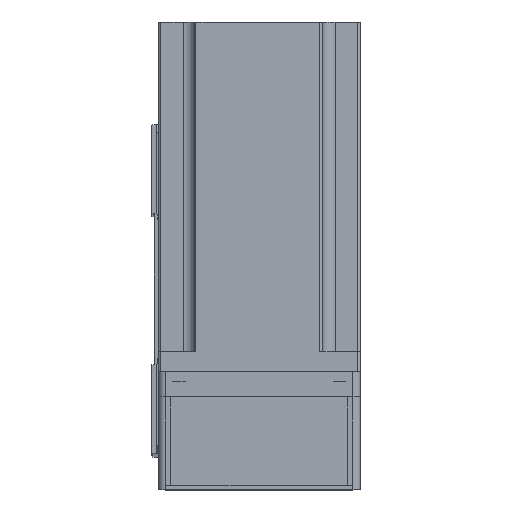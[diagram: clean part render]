
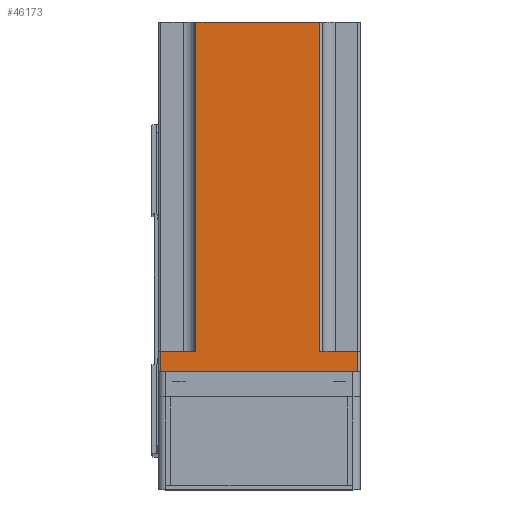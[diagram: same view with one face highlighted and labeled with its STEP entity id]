
A CAD part, top view. The second image highlights one B-rep face of the part: STEP entity #46173.
In plain terms, the highlighted planar face has unit normal (0, 0, 1) as drawn and (-1, 0, 0) by its records, which use the part's own axes.
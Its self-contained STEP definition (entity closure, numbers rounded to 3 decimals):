
#272 = CARTESIAN_POINT ( 'NONE',  ( -40., 25., 8. ) ) ;
#734 = VERTEX_POINT ( 'NONE', #46918 ) ;
#1459 = VECTOR ( 'NONE', #47501, 1000. ) ;
#1479 = CARTESIAN_POINT ( 'NONE',  ( -40., 39., 138.3 ) ) ;
#3013 = VECTOR ( 'NONE', #41706, 1000. ) ;
#4168 = LINE ( 'NONE', #1479, #3013 ) ;
#4340 = VERTEX_POINT ( 'NONE', #21502 ) ;
#4610 = CARTESIAN_POINT ( 'NONE',  ( -40., 40., 8. ) ) ;
#4876 = EDGE_CURVE ( 'NONE', #39867, #13614, #39318, .T. ) ;
#5518 = ORIENTED_EDGE ( 'NONE', *, *, #42500, .T. ) ;
#6212 = LINE ( 'NONE', #20570, #25747 ) ;
#6796 = VERTEX_POINT ( 'NONE', #33326 ) ;
#7011 = VERTEX_POINT ( 'NONE', #45441 ) ;
#7060 = CARTESIAN_POINT ( 'NONE',  ( -40., -40., 8. ) ) ;
#9860 = CARTESIAN_POINT ( 'NONE',  ( -40., 25., 8. ) ) ;
#10261 = ORIENTED_EDGE ( 'NONE', *, *, #41703, .T. ) ;
#13614 = VERTEX_POINT ( 'NONE', #37265 ) ;
#13675 = VECTOR ( 'NONE', #17178, 1000. ) ;
#13715 = CARTESIAN_POINT ( 'NONE',  ( -40., -40., 138.3 ) ) ;
#14407 = VERTEX_POINT ( 'NONE', #34336 ) ;
#16095 = FACE_OUTER_BOUND ( 'NONE', #36684, .T. ) ;
#17178 = DIRECTION ( 'NONE',  ( 0., 0., 1. ) ) ;
#17378 = DIRECTION ( 'NONE',  ( 0., 0., -1. ) ) ;
#18541 = VERTEX_POINT ( 'NONE', #272 ) ;
#18714 = ORIENTED_EDGE ( 'NONE', *, *, #41621, .T. ) ;
#19352 = AXIS2_PLACEMENT_3D ( 'NONE', #13715, #39356, #17378 ) ;
#20240 = CARTESIAN_POINT ( 'NONE',  ( -40., -24., 138.3 ) ) ;
#20570 = CARTESIAN_POINT ( 'NONE',  ( -40., -39., 138.3 ) ) ;
#21045 = ORIENTED_EDGE ( 'NONE', *, *, #41912, .F. ) ;
#21502 = CARTESIAN_POINT ( 'NONE',  ( -40., -24., 8. ) ) ;
#21837 = CARTESIAN_POINT ( 'NONE',  ( -40., -40., 138.3 ) ) ;
#25747 = VECTOR ( 'NONE', #46194, 1000. ) ;
#26275 = EDGE_CURVE ( 'NONE', #734, #6796, #28180, .T. ) ;
#26586 = DIRECTION ( 'NONE',  ( 0., 1., 0. ) ) ;
#27018 = VECTOR ( 'NONE', #43764, 1000. ) ;
#28180 = LINE ( 'NONE', #21837, #27018 ) ;
#31012 = VECTOR ( 'NONE', #26586, 1000. ) ;
#31143 = DIRECTION ( 'NONE',  ( 0., 0., 1. ) ) ;
#32250 = VECTOR ( 'NONE', #40076, 1000. ) ;
#33200 = LINE ( 'NONE', #9860, #13675 ) ;
#33326 = CARTESIAN_POINT ( 'NONE',  ( -40., -24., 138.3 ) ) ;
#33327 = LINE ( 'NONE', #4610, #31012 ) ;
#33854 = ORIENTED_EDGE ( 'NONE', *, *, #26275, .F. ) ;
#34336 = CARTESIAN_POINT ( 'NONE',  ( -40., 39., 8. ) ) ;
#34792 = ORIENTED_EDGE ( 'NONE', *, *, #4876, .T. ) ;
#36684 = EDGE_LOOP ( 'NONE', ( #21045, #10261, #33854, #39410, #5518, #18714, #34792, #41635 ) ) ;
#37265 = CARTESIAN_POINT ( 'NONE',  ( -40., -39., 0. ) ) ;
#38590 = LINE ( 'NONE', #20240, #39733 ) ;
#39194 = PLANE ( 'NONE',  #19352 ) ;
#39318 = LINE ( 'NONE', #43812, #1459 ) ;
#39356 = DIRECTION ( 'NONE',  ( 1., 0., 0. ) ) ;
#39410 = ORIENTED_EDGE ( 'NONE', *, *, #43318, .F. ) ;
#39733 = VECTOR ( 'NONE', #31143, 1000. ) ;
#39867 = VERTEX_POINT ( 'NONE', #41892 ) ;
#40076 = DIRECTION ( 'NONE',  ( 0., -1., 0. ) ) ;
#41621 = EDGE_CURVE ( 'NONE', #14407, #39867, #4168, .T. ) ;
#41635 = ORIENTED_EDGE ( 'NONE', *, *, #43245, .T. ) ;
#41703 = EDGE_CURVE ( 'NONE', #4340, #6796, #38590, .T. ) ;
#41706 = DIRECTION ( 'NONE',  ( 0., 0., -1. ) ) ;
#41892 = CARTESIAN_POINT ( 'NONE',  ( -40., 39., 0. ) ) ;
#41912 = EDGE_CURVE ( 'NONE', #4340, #7011, #43142, .T. ) ;
#42500 = EDGE_CURVE ( 'NONE', #18541, #14407, #33327, .T. ) ;
#43142 = LINE ( 'NONE', #7060, #32250 ) ;
#43245 = EDGE_CURVE ( 'NONE', #13614, #7011, #6212, .T. ) ;
#43318 = EDGE_CURVE ( 'NONE', #18541, #734, #33200, .T. ) ;
#43764 = DIRECTION ( 'NONE',  ( 0., -1., 0. ) ) ;
#43812 = CARTESIAN_POINT ( 'NONE',  ( -40., -40., 0. ) ) ;
#45441 = CARTESIAN_POINT ( 'NONE',  ( -40., -39., 8. ) ) ;
#46173 = ADVANCED_FACE ( 'NONE', ( #16095 ), #39194, .F. ) ;
#46194 = DIRECTION ( 'NONE',  ( 0., 0., 1. ) ) ;
#46918 = CARTESIAN_POINT ( 'NONE',  ( -40., 25., 138.3 ) ) ;
#47501 = DIRECTION ( 'NONE',  ( 0., -1., 0. ) ) ;
